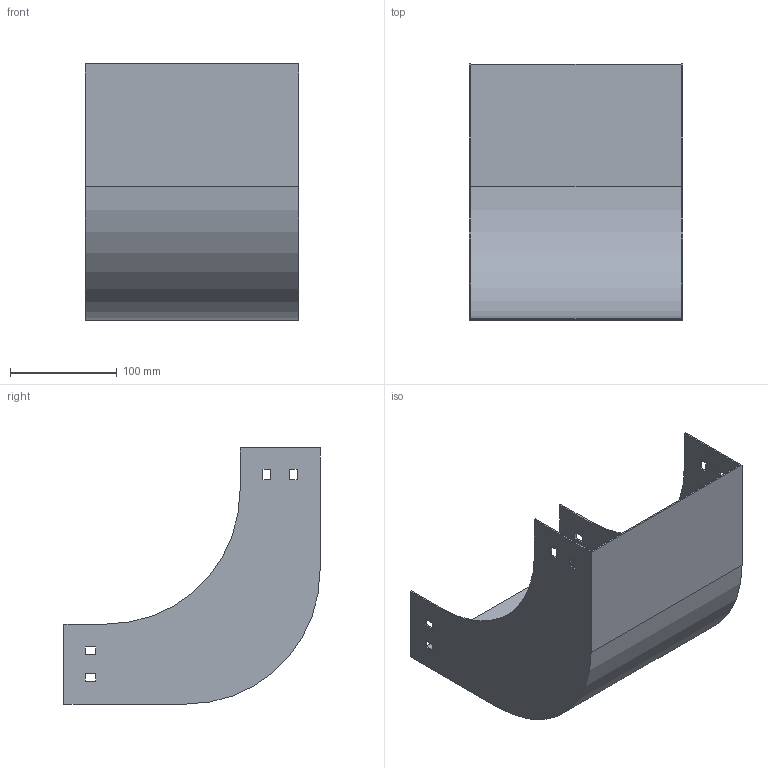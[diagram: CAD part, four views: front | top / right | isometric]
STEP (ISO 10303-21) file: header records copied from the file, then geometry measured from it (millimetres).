
FILE_DESCRIPTION (( 'STEP AP214' ), '1' );
FILE_NAME ('S9_207.step', '2025-07-16T09:28:04', ( '' ), ( '' ), 'SwSTEP 2.0', 'SolidWorks 2023', '' );
FILE_SCHEMA (( 'AUTOMOTIVE_DESIGN' ));
Length unit declared in the file: millimetre
Products named in the file (1): S9_207
Bounding box: 200 x 240 x 240 mm (x, y, z)
Volume: 215923.2 mm3; surface area: 290179.1 mm2
Topology: 1 solids, 1 shells, 50 faces, 144 edges, 96 vertices
Faces by surface type: plane 46, cylinder 4
Entity records: 1671 total; most frequent: CARTESIAN_POINT 291, ORIENTED_EDGE 288, DIRECTION 254, EDGE_CURVE 144, VECTOR 136, LINE 136, VERTEX_POINT 96, EDGE_LOOP 66
